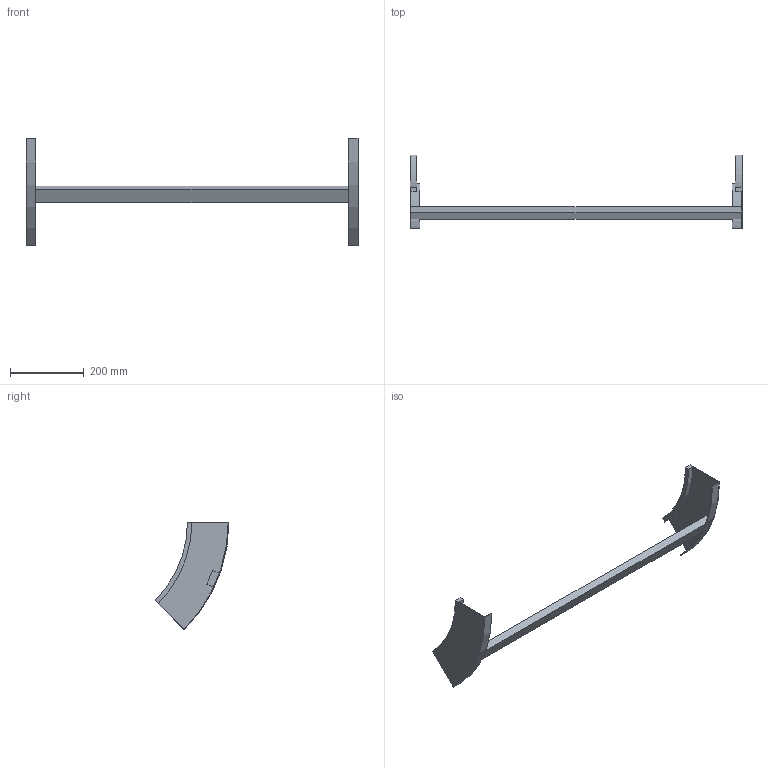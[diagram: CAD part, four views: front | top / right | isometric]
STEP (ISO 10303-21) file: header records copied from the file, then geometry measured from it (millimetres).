
FILE_DESCRIPTION (( 'STEP AP214' ), '1' );
FILE_NAME ('B2X31B3J900XX.step', '2025-03-20T10:08:08', ( '' ), ( '' ), 'SwSTEP 2.0', 'SolidWorks 2023', '' );
FILE_SCHEMA (( 'AUTOMOTIVE_DESIGN' ));
Length unit declared in the file: millimetre
Products named in the file (3): B2_LONGH.SALITA_45°_H112.5_R300; TRAVERSINO_900; B2X31B3J900XX
Assembly tree (3 placements, depth 2):
  B2X31B3J900XX
    B2_LONGH.SALITA_45°_H112.5_R300  x2
    TRAVERSINO_900
Bounding box: 900 x 200.37 x 291.68 mm (x, y, z)
Volume: 976275.7 mm3; surface area: 287751.9 mm2
Topology: 3 solids, 3 shells, 26 faces, 60 edges, 40 vertices
Faces by surface type: plane 18, cylinder 8
Entity records: 544 total; most frequent: DIRECTION 88, CARTESIAN_POINT 82, ORIENTED_EDGE 72, EDGE_CURVE 36, AXIS2_PLACEMENT_3D 30, LINE 28, VECTOR 28, VERTEX_POINT 24
